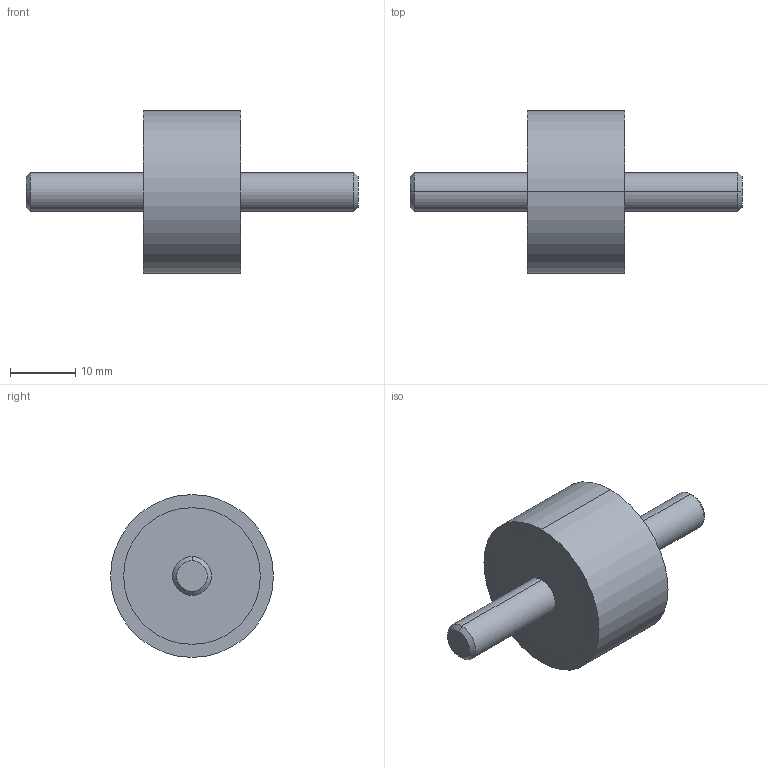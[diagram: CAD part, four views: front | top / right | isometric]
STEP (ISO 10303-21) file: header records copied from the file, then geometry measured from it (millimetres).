
FILE_DESCRIPTION (( 'STEP AP214' ), '1' );
FILE_NAME ('351-25-15-M6-SS-40.step', '2025-07-23T10:01:08', ( '' ), ( '' ), 'SwSTEP 2.0', 'SolidWorks 2022', '' );
FILE_SCHEMA (( 'AUTOMOTIVE_DESIGN' ));
Length unit declared in the file: millimetre
Products named in the file (1): 351-25-15-M6-SS-40
Bounding box: 51 x 25 x 25 mm (x, y, z)
Volume: 8367.2 mm3; surface area: 2824.7 mm2
Topology: 1 solids, 1 shells, 20 faces, 38 edges, 24 vertices
Faces by surface type: cylinder 10, plane 6, cone 4
Entity records: 636 total; most frequent: DIRECTION 104, CARTESIAN_POINT 83, ORIENTED_EDGE 76, AXIS2_PLACEMENT_3D 45, EDGE_CURVE 38, VERTEX_POINT 24, CIRCLE 24, EDGE_LOOP 24
